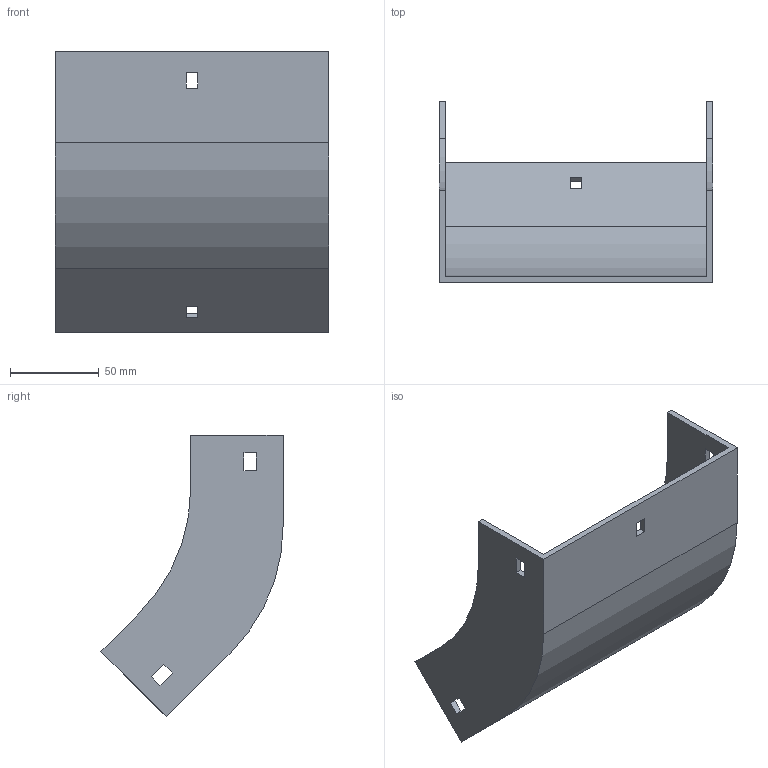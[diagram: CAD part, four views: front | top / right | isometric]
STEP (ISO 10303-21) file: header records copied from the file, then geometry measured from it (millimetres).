
FILE_DESCRIPTION (( 'STEP AP214' ), '1' );
FILE_NAME ('31F1B150.step', '2025-02-21T12:59:56', ( '' ), ( '' ), 'SwSTEP 2.0', 'SolidWorks 2023', '' );
FILE_SCHEMA (( 'AUTOMOTIVE_DESIGN' ));
Length unit declared in the file: millimetre
Products named in the file (1): 31F1B150
Bounding box: 154 x 102.5 x 158.69 mm (x, y, z)
Volume: 151180.8 mm3; surface area: 89818.4 mm2
Topology: 1 solids, 1 shells, 42 faces, 120 edges, 80 vertices
Faces by surface type: plane 38, cylinder 4
Entity records: 1399 total; most frequent: CARTESIAN_POINT 243, ORIENTED_EDGE 240, DIRECTION 214, EDGE_CURVE 120, LINE 112, VECTOR 112, VERTEX_POINT 80, EDGE_LOOP 54
